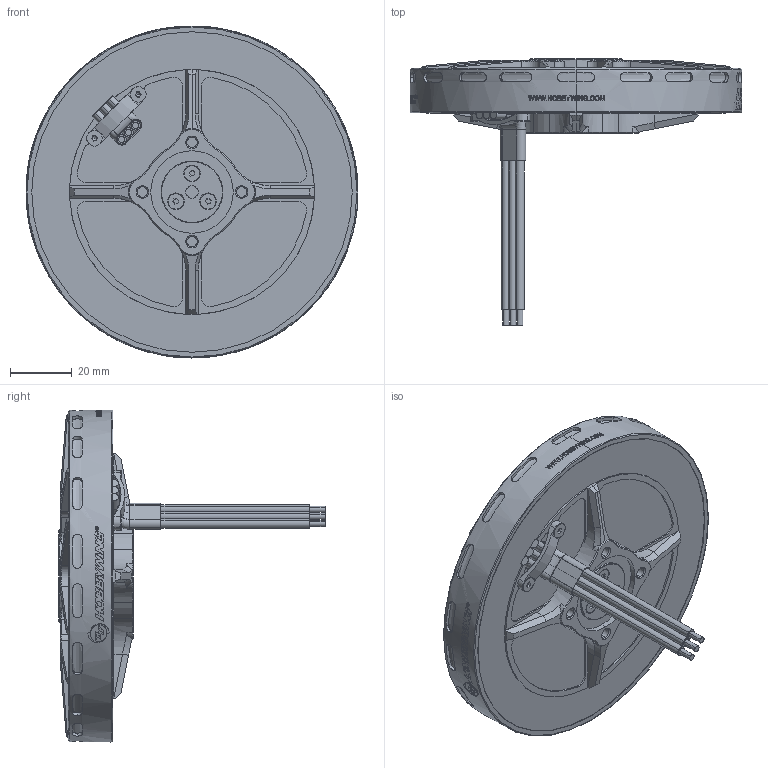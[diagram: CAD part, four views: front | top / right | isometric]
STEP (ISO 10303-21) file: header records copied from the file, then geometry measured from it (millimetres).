
FILE_DESCRIPTION (( 'STEP AP203' ), '1' );
FILE_NAME ('HM-10005-UL-萇儂3D-勤俋.STEP', '2024-08-05T12:06:49', ( '' ), ( '' ), 'SwSTEP 2.0', 'SolidWorks 2021', '' );
FILE_SCHEMA (( 'CONFIG_CONTROL_DESIGN' ));
Products named in the file (1): HM-10005-UL-萇儂3D-勤俋
Bounding box: 107.1 x 85.9 x 107.1 mm (x, y, z)
Volume: 130927.9 mm3; surface area: 32387.5 mm2
Topology: 2 solids, 8 shells, 2164 faces, 5777 edges, 3751 vertices
Faces by surface type: plane 846, bspline 636, cylinder 493, cone 177, torus 12
Entity records: 92656 total; most frequent: CARTESIAN_POINT 43975, ORIENTED_EDGE 11522, DIRECTION 7969, EDGE_CURVE 5761, VERTEX_POINT 3751, AXIS2_PLACEMENT_3D 3056, B_SPLINE_CURVE_WITH_KNOTS 2348, EDGE_LOOP 2308
